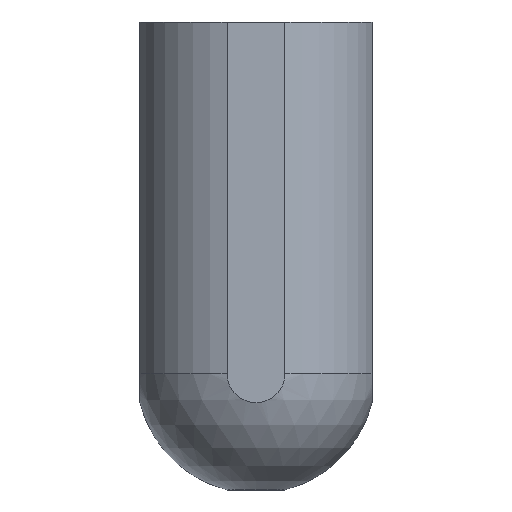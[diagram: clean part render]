
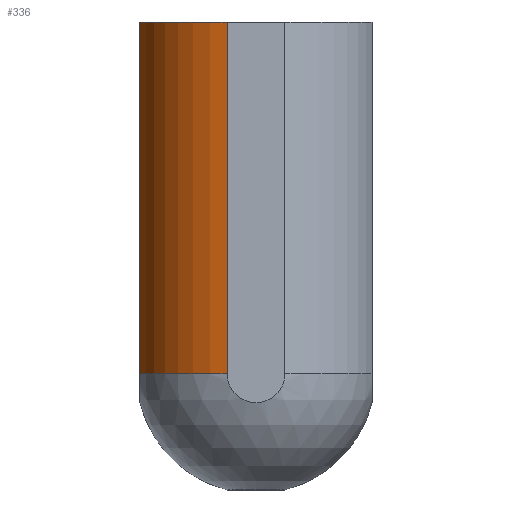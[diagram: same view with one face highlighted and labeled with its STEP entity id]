
A CAD part, left-side view. The second image highlights one B-rep face of the part: STEP entity #336.
In plain terms, the highlighted cylindrical face has radius 17 mm (diameter 34 mm), a partial arc.
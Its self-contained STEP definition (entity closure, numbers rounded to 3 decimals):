
#20 = LINE ( 'NONE', #725, #417 ) ;
#26 = EDGE_CURVE ( 'NONE', #33, #921, #624, .T. ) ;
#33 = VERTEX_POINT ( 'NONE', #90 ) ;
#42 = VERTEX_POINT ( 'NONE', #404 ) ;
#50 = DIRECTION ( 'NONE',  ( 1., 0., 0. ) ) ;
#63 = AXIS2_PLACEMENT_3D ( 'NONE', #778, #952, #321 ) ;
#76 = CARTESIAN_POINT ( 'NONE',  ( -70., 0., 0. ) ) ;
#90 = CARTESIAN_POINT ( 'NONE',  ( -74.093, 16.5, 0. ) ) ;
#119 = ORIENTED_EDGE ( 'NONE', *, *, #26, .T. ) ;
#128 = EDGE_CURVE ( 'NONE', #42, #921, #594, .T. ) ;
#138 = ORIENTED_EDGE ( 'NONE', *, *, #128, .F. ) ;
#160 = AXIS2_PLACEMENT_3D ( 'NONE', #286, #603, #50 ) ;
#176 = CARTESIAN_POINT ( 'NONE',  ( -86.5, 4.093, 0. ) ) ;
#199 = ORIENTED_EDGE ( 'NONE', *, *, #424, .F. ) ;
#271 = DIRECTION ( 'NONE',  ( 0., 0., -1. ) ) ;
#286 = CARTESIAN_POINT ( 'NONE',  ( -70., 0., 0. ) ) ;
#310 = CIRCLE ( 'NONE', #63, 17. ) ;
#321 = DIRECTION ( 'NONE',  ( 1., 0., 0. ) ) ;
#336 = ADVANCED_FACE ( 'NONE', ( #752 ), #997, .T. ) ;
#384 = CARTESIAN_POINT ( 'NONE',  ( -74.093, 16.5, 50. ) ) ;
#401 = VERTEX_POINT ( 'NONE', #384 ) ;
#404 = CARTESIAN_POINT ( 'NONE',  ( -86.5, 4.093, 50. ) ) ;
#417 = VECTOR ( 'NONE', #420, 1000. ) ;
#420 = DIRECTION ( 'NONE',  ( 0., 0., -1. ) ) ;
#424 = EDGE_CURVE ( 'NONE', #401, #42, #310, .T. ) ;
#479 = EDGE_CURVE ( 'NONE', #401, #33, #20, .T. ) ;
#594 = LINE ( 'NONE', #176, #599 ) ;
#599 = VECTOR ( 'NONE', #271, 1000. ) ;
#603 = DIRECTION ( 'NONE',  ( 0., 0., 1. ) ) ;
#624 = CIRCLE ( 'NONE', #907, 17. ) ;
#677 = EDGE_LOOP ( 'NONE', ( #138, #199, #859, #119 ) ) ;
#713 = DIRECTION ( 'NONE',  ( 1., 0., 0. ) ) ;
#725 = CARTESIAN_POINT ( 'NONE',  ( -74.093, 16.5, 0. ) ) ;
#752 = FACE_OUTER_BOUND ( 'NONE', #677, .T. ) ;
#778 = CARTESIAN_POINT ( 'NONE',  ( -70., 0., 50. ) ) ;
#852 = CARTESIAN_POINT ( 'NONE',  ( -86.5, 4.093, 0. ) ) ;
#859 = ORIENTED_EDGE ( 'NONE', *, *, #479, .T. ) ;
#907 = AXIS2_PLACEMENT_3D ( 'NONE', #76, #950, #713 ) ;
#921 = VERTEX_POINT ( 'NONE', #852 ) ;
#950 = DIRECTION ( 'NONE',  ( 0., 0., 1. ) ) ;
#952 = DIRECTION ( 'NONE',  ( 0., 0., 1. ) ) ;
#997 = CYLINDRICAL_SURFACE ( 'NONE', #160, 17. ) ;
